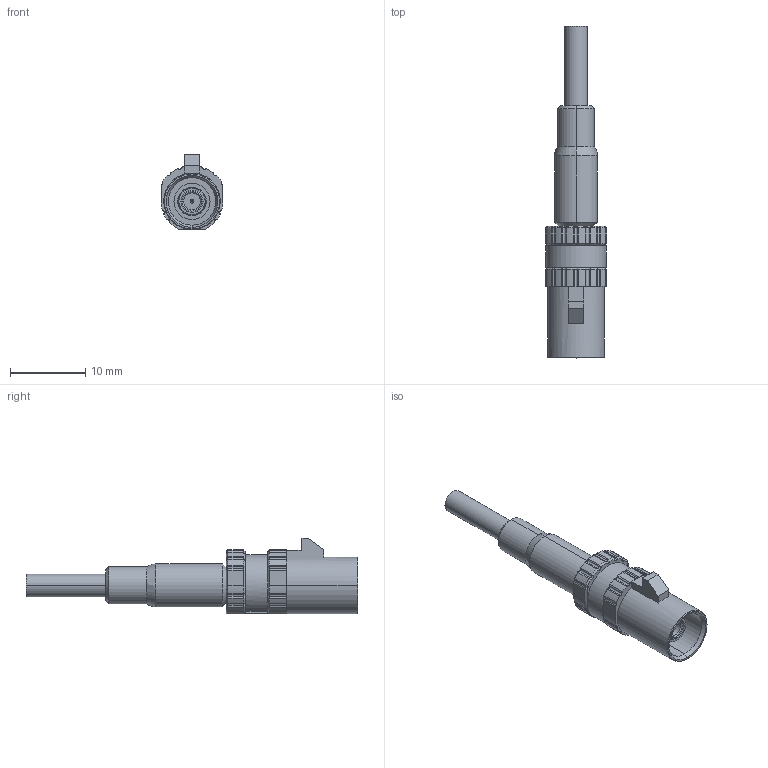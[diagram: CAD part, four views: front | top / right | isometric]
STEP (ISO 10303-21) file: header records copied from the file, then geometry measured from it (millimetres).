
FILE_DESCRIPTION((''),'2;1');
FILE_NAME('CRC1001-5701F','2022-03-14T18:08:36',('smknikai'),(''),'CREO PARAMETRIC BY PTC INC, 2020454','CREO PARAMETRIC BY PTC INC, 2020454','');
FILE_SCHEMA(('AP242_MANAGED_MODEL_BASED_3D_ENGINEERING_MIM_LF { 1 0 10303 442 1 1 4 }'));
Length unit declared in the file: millimetre
Products named in the file (1): CRC1001-5701F
Bounding box: 8.2 x 44.1 x 10 mm (x, y, z)
Volume: 1117.4 mm3; surface area: 1254.5 mm2
Topology: 1 solids, 1 shells, 318 faces, 751 edges, 377 vertices
Faces by surface type: cone 151, cylinder 112, plane 49, torus 4, bspline 2
Entity records: 11210 total; most frequent: DIRECTION 1627, CARTESIAN_POINT 1539, ORIENTED_EDGE 1370, EDGE_CURVE 685, AXIS2_PLACEMENT_3D 643, VERTEX_POINT 377, VECTOR 341, LINE 341
